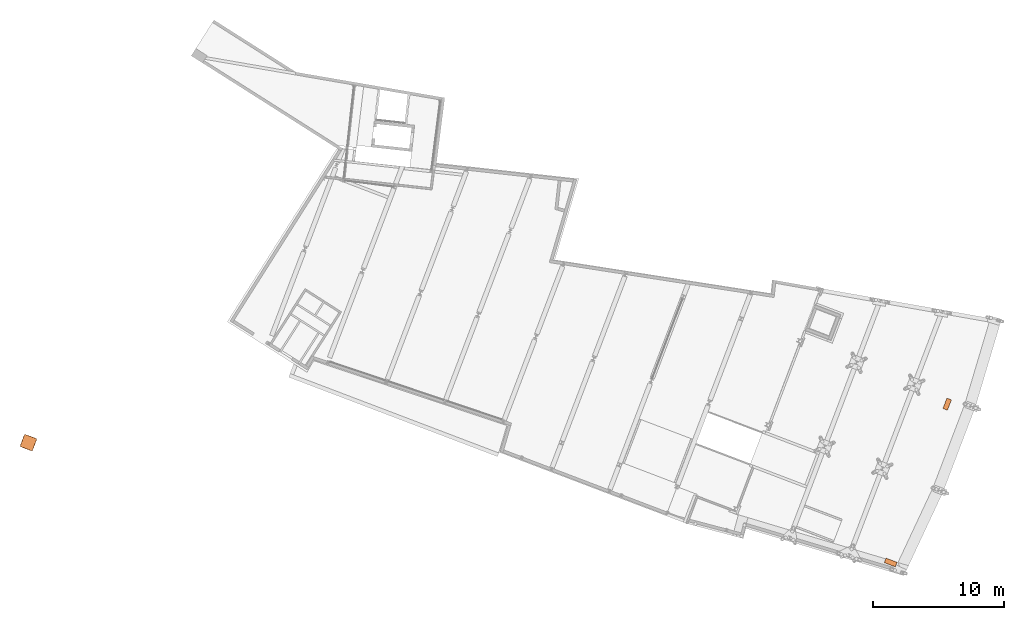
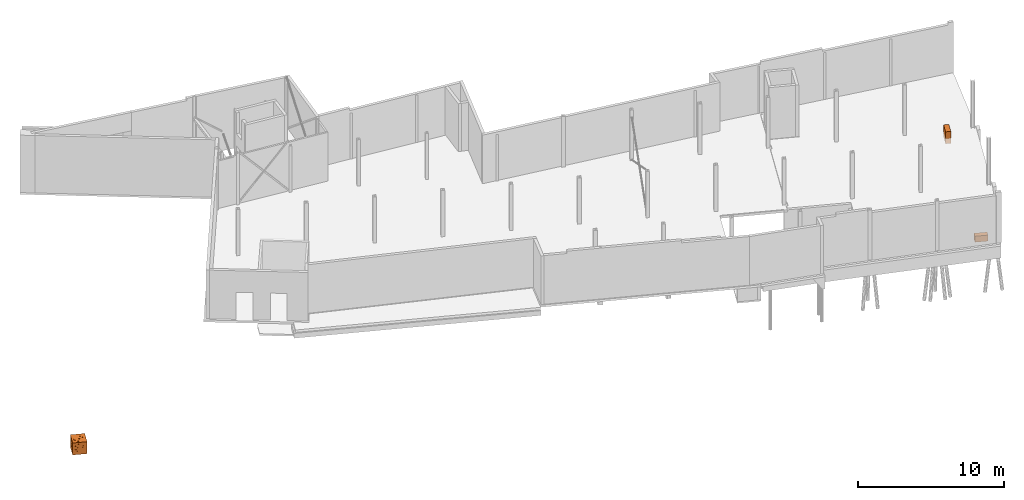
# One storey, part 46 of 46: 3 proxies.
"""IFC2X3 building model written with IfcOpenShell, lengths in millimetres."""

from ifc_helpers import new_model, entity, si_unit, converted_unit, derived_unit, direction, frame, frame_2d, origin, origin_2d_with_axis, place, context, subcontext, project, spatial, polyline, rectangle, circle, outline, extrude, source, transform, mapped, material, material_list, type_object, type_shapes, element, save


model = new_model("IFC2X3")

# Units and contexts
model_context = context("Model", 3, precision=0.01, world=origin(), true_north=direction((6.123233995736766e-17, 1.0)))
body_context = subcontext(model_context, "Body", "Model", "MODEL_VIEW")
ifc_project = project(units=[si_unit("LENGTHUNIT", "METRE", prefix="MILLI"), converted_unit("PLANEANGLEUNIT", "DEGREE", entity("IfcPlaneAngleMeasure", 0.017453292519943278), si_unit("PLANEANGLEUNIT", "RADIAN"), dimensions=[0, 0, 0, 0, 0, 0, 0]), si_unit("AREAUNIT", "SQUARE_METRE"), derived_unit("THERMALTRANSMITTANCEUNIT", [(si_unit("MASSUNIT", "GRAM", prefix="KILO"), 1), (si_unit("THERMODYNAMICTEMPERATUREUNIT", "KELVIN"), -1), (si_unit("TIMEUNIT", "SECOND"), -3)])], contexts=[model_context])

# Site, building, storey
site_placement = place(None, frame((-72937.88054949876, 11621.45624098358, 0.0), z_axis=(0.0, 0.0, 1.0), x_axis=(0.9346418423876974, -0.35559053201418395, 0.0)))
site = spatial("IfcSite", under=ifc_project, at=site_placement, Name="Default", CompositionType="ELEMENT")
building_placement = place(site_placement, origin())
building = spatial("IfcBuilding", under=site, at=building_placement, CompositionType="ELEMENT")
storey_placement = place(building_placement, origin())
storey = spatial("IfcBuildingStorey", under=building, at=storey_placement, Name="00 begane grond", CompositionType="ELEMENT", Elevation=0.0)

# Proxies
ifc_material_1 = material(Name="00_EPA_Paars")
ifc_material_2 = material(Name="00_EPA_Rood")
ifc_material_3 = material(Name="00_EPA_Groen")
ifc_material_4 = material(Name="00_EPA_Wit")
ifc_material_list = material_list([ifc_material_1, ifc_material_2, ifc_material_3, ifc_material_4])
building_element_proxy_type_1 = type_object("IfcBuildingElementProxyType", Name="EPA", PredefinedType="NOTDEFINED", material=ifc_material_list)
shared_shape_1 = source(origin(), body_context, "Body", "SweptSolid", [
    extrude(circle(Radius=71.4285714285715, at=frame_2d((-1.577919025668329e-28, -6.767919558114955e-14), x_axis=(1.0, 0.0))), frame((785.7142857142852, 1000.0, 357.14285714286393), z_axis=(0.0, 1.0, 0.0), x_axis=(-1.0, 0.0, 0.0)), (0.0, 0.0, 1.0), 10.000000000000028),
    extrude(circle(Radius=71.4285714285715, at=frame_2d((-3.155838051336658e-28, -1.353583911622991e-13), x_axis=(1.0, 0.0))), frame((214.28571428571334, 1000.0, 642.8571428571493), z_axis=(0.0, 1.0, 0.0), x_axis=(-1.0, 0.0, 0.0)), (0.0, 0.0, 1.0), 10.000000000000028),
    extrude(outline(polyline([(-238.09523809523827, -142.85714285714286), (333.33333333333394, -142.85714285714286), (333.33333333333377, 0.0), (-95.23809523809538, 0.0), (-95.23809523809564, 142.85714285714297), (-238.09523809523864, 142.857142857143), (-238.09523809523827, -142.85714285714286)])), frame((619.0476190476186, 1000.0, 571.4285714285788), z_axis=(0.0, 1.0, 0.0), x_axis=(-1.0, 0.0, 0.0)), (0.0, 0.0, 1.0), 10.000000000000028),
    extrude(rectangle(XDim=10.000000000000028, YDim=285.71428571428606, at=frame_2d((6.794564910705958e-14, 2.842170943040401e-14), x_axis=(1.0, 0.0))), frame((571.4285714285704, 1005.0, 142.85714285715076), z_axis=(0.0, 0.0, 1.0), x_axis=(0.0, -1.0, 0.0)), (0.0, 0.0, 1.0), 142.85714285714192),
    extrude(rectangle(XDim=10.000000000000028, YDim=428.5714285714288, at=frame_2d((6.794564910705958e-14, 4.263256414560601e-14), x_axis=(1.0, 0.0))), frame((500.0, 1005.0, 714.2857142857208), z_axis=(0.0, 0.0, 1.0), x_axis=(0.0, -1.0, 0.0)), (0.0, 0.0, 1.0), 142.85714285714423),
    extrude(circle(Radius=71.4285714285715, at=frame_2d((2.532184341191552e-27, -1.353583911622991e-13), x_axis=(1.0, 0.0))), frame((214.28571428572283, 357.142857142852, 1000.0)), (0.0, 0.0, 1.0), 10.000000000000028),
    extrude(circle(Radius=71.4285714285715, at=frame_2d((2.532184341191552e-27, -1.353583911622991e-13), x_axis=(1.0, 0.0))), frame((785.7142857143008, 642.8571428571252, 1000.0)), (0.0, 0.0, 1.0), 10.000000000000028),
    extrude(outline(polyline([(-238.0952380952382, -142.85714285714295), (333.33333333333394, -142.85714285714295), (333.3333333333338, 0.0), (-95.23809523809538, 0.0), (-95.23809523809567, 142.8571428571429), (-238.0952380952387, 142.85714285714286), (-238.0952380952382, -142.85714285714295)])), frame((380.95238095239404, 571.4285714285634, 1000.0)), (0.0, 0.0, 1.0), 10.000000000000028),
    extrude(rectangle(XDim=142.85714285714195, YDim=285.7142857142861, at=frame_2d((-2.1316282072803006e-14, 1.4210854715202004e-14), x_axis=(1.0, 0.0))), frame((428.5714285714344, 214.2857142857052, 1000.0), z_axis=(0.0, 0.0, 1.0), x_axis=(0.0, 1.0, 0.0)), (0.0, 0.0, 1.0), 10.000000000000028),
    extrude(rectangle(XDim=428.5714285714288, YDim=142.85714285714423, at=frame_2d((0.0, -7.105427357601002e-14), x_axis=(1.0, 0.0))), frame((500.0, 785.714285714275, 1000.0), z_axis=(0.0, 0.0, 1.0), x_axis=(-1.0, 0.0, 0.0)), (0.0, 0.0, 1.0), 10.000000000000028),
    extrude(circle(Radius=71.4285714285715, at=frame_2d((-1.0878624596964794e-27, -3.383959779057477e-13), x_axis=(1.0, 0.0))), frame((-10.0, 785.714285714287, 357.1428571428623), z_axis=(1.0, 0.0, 0.0), x_axis=(0.0, -1.0, 0.0)), (0.0, 0.0, 1.0), 10.0),
    extrude(circle(Radius=71.4285714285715, at=frame_2d((-1.3054349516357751e-27, -4.060751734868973e-13), x_axis=(1.0, 0.0))), frame((-10.0, 214.28571428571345, 642.8571428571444), z_axis=(1.0, 0.0, 0.0), x_axis=(0.0, -1.0, 0.0)), (0.0, 0.0, 1.0), 10.0),
    extrude(outline(polyline([(-142.85714285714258, -238.0952380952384), (142.85714285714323, -238.0952380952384), (142.8571428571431, -95.23809523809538), (0.0, -95.23809523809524), (0.0, 333.3333333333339), (-142.85714285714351, 333.33333333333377), (-142.85714285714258, -238.0952380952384)])), frame((-10.0, 619.047619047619, 571.4285714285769), z_axis=(1.0, 0.0, 0.0), x_axis=(0.0, 0.0, 1.0)), (0.0, 0.0, 1.0), 10.0),
    extrude(rectangle(XDim=10.0, YDim=285.71428571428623, at=frame_2d((0.0, 4.263256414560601e-14), x_axis=(1.0, 0.0))), frame((-5.0, 571.4285714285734, 142.85714285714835)), (0.0, 0.0, 1.0), 142.85714285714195),
    extrude(rectangle(XDim=10.0, YDim=428.5714285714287, at=frame_2d((0.0, 7.105427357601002e-14), x_axis=(1.0, 0.0))), frame((-5.0, 500.0, 714.2857142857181)), (0.0, 0.0, 1.0), 142.85714285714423),
    extrude(circle(Radius=71.4285714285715, at=frame_2d((0.0, -3.383959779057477e-13), x_axis=(1.0, 0.0))), frame((214.28571428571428, -10.0, 357.1428571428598), z_axis=(0.0, 1.0, 0.0), x_axis=(1.0, 0.0, 0.0)), (0.0, 0.0, 1.0), 10.0),
    extrude(circle(Radius=71.4285714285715, at=frame_2d((0.0, -2.707167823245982e-13), x_axis=(1.0, 0.0))), frame((785.7142857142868, -10.0, 642.8571428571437), z_axis=(0.0, 1.0, 0.0), x_axis=(1.0, 0.0, 0.0)), (0.0, 0.0, 1.0), 9.999999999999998),
    extrude(outline(polyline([(-142.85714285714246, -238.0952380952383), (142.85714285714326, -238.0952380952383), (142.8571428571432, -95.23809523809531), (0.0, -95.23809523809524), (0.0, 333.3333333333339), (-142.8571428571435, 333.3333333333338), (-142.85714285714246, -238.0952380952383)])), frame((380.95238095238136, -10.0, 571.4285714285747), z_axis=(0.0, 1.0, 0.0), x_axis=(0.0, 0.0, 1.0)), (0.0, 0.0, 1.0), 10.0),
    extrude(rectangle(XDim=10.0, YDim=285.7142857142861, at=origin_2d_with_axis()), frame((428.57142857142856, -5.0, 142.85714285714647), z_axis=(0.0, 0.0, 1.0), x_axis=(0.0, 1.0, 0.0)), (0.0, 0.0, 1.0), 142.85714285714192),
    extrude(rectangle(XDim=10.0, YDim=428.5714285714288, at=frame_2d((0.0, -4.263256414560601e-14), x_axis=(1.0, 0.0))), frame((500.0, -5.0, 714.2857142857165), z_axis=(0.0, 0.0, 1.0), x_axis=(0.0, 1.0, 0.0)), (0.0, 0.0, 1.0), 142.85714285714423),
    extrude(circle(Radius=71.4285714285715, at=frame_2d((-2.1871761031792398e-28, -6.767919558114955e-14), x_axis=(1.0, 0.0))), frame((1000.0, 214.28571428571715, 357.14285714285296), z_axis=(1.0, 0.0, 0.0), x_axis=(0.0, 1.0, 0.0)), (0.0, 0.0, 1.0), 10.000000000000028),
    extrude(circle(Radius=71.4285714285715, at=frame_2d((-4.3743522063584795e-28, -1.353583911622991e-13), x_axis=(1.0, 0.0))), frame((1000.0, 785.7142857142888, 642.8571428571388), z_axis=(1.0, 0.0, 0.0), x_axis=(0.0, 1.0, 0.0)), (0.0, 0.0, 1.0), 10.000000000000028),
    extrude(outline(polyline([(-238.0952380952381, -142.85714285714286), (333.33333333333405, -142.85714285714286), (333.3333333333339, 0.0), (-95.23809523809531, 0.0), (-95.23809523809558, 142.857142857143), (-238.09523809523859, 142.85714285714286), (-238.0952380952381, -142.85714285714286)])), frame((1000.0, 380.9523809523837, 571.428571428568), z_axis=(1.0, 0.0, 0.0), x_axis=(0.0, 1.0, 0.0)), (0.0, 0.0, 1.0), 10.000000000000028),
    extrude(rectangle(XDim=10.000000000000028, YDim=285.7142857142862, at=frame_2d((-6.794564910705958e-14, 0.0), x_axis=(1.0, 0.0))), frame((1005.0, 428.57142857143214, 142.85714285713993), z_axis=(0.0, 0.0, 1.0), x_axis=(-1.0, 0.0, 0.0)), (0.0, 0.0, 1.0), 142.85714285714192),
    extrude(rectangle(XDim=10.000000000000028, YDim=428.57142857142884, at=frame_2d((-6.794564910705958e-14, 7.105427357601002e-14), x_axis=(1.0, 0.0))), frame((1005.0, 500.0, 714.2857142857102), z_axis=(0.0, 0.0, 1.0), x_axis=(-1.0, 0.0, 0.0)), (0.0, 0.0, 1.0), 142.85714285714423),
    extrude(rectangle(XDim=999.9999999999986, YDim=999.9999999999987, at=frame_2d((-5.684341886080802e-14, 0.0), x_axis=(1.0, 0.0))), frame((500.0, 500.0, 0.0), z_axis=(0.0, 0.0, 1.0), x_axis=(0.0, 1.0, 0.0)), (0.0, 0.0, 1.0), 999.9999999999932),
])
type_shapes(building_element_proxy_type_1, [shared_shape_1])
proxy_1_placement = place(storey_placement, origin())
element("IfcBuildingElementProxy", 1, at=proxy_1_placement, inside=storey, type_object=building_element_proxy_type_1, material=ifc_material_list, Name="01_GM_ReferentieKubus:EPA", ObjectType="01_GM_ReferentieKubus:EPA", context=body_context, shape_type="MappedRepresentation", body=[
    mapped(shared_shape_1, transform((0.0, 0.0, 0.0), scale=1.0)),
])
ifc_material_5 = material(Name="ntb_ntb_generiek_sparingzone")
building_element_proxy_type_2 = type_object("IfcBuildingElementProxyType", Name="850x370", PredefinedType="USERDEFINED", material=ifc_material_5)
shared_shape_2 = source(origin(), body_context, "Body", "SweptSolid", [
    extrude(rectangle(XDim=369.99999999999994, YDim=849.9999999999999, at=origin_2d_with_axis()), frame((0.0, 0.0, -500.0), z_axis=(0.0, 0.0, 1.0), x_axis=(-1.0, 0.0, 0.0)), (0.0, 0.0, 1.0), 1000.0000000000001),
])
type_shapes(building_element_proxy_type_2, [shared_shape_2])
proxy_2_placement = place(storey_placement, frame((65186.36400200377, 28260.00011535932, 0.0)))
element("IfcBuildingElementProxy", 2, at=proxy_2_placement, inside=storey, type_object=building_element_proxy_type_2, material=ifc_material_5, Name="33.22_GM_SparingZone:850x370", ObjectType="33.22_GM_SparingZone:850x370", context=body_context, shape_type="MappedRepresentation", body=[
    mapped(shared_shape_2, transform((0.0, 0.0, 0.0), scale=1.0)),
])
building_element_proxy_type_3 = type_object("IfcBuildingElementProxyType", Name="900x370mm", PredefinedType="USERDEFINED", material=ifc_material_5)
shared_shape_3 = source(origin(), body_context, "Body", "SweptSolid", [
    extrude(rectangle(XDim=369.99999999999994, YDim=899.9999999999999, at=origin_2d_with_axis()), frame((0.0, 0.0, 0.0), z_axis=(0.0, 0.0, 1.0), x_axis=(-1.0, 0.0, 0.0)), (0.0, 0.0, 1.0), 500.00000000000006),
])
type_shapes(building_element_proxy_type_3, [shared_shape_3])
proxy_3_placement = place(storey_placement, frame((65450.00015558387, 15397.039787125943, 0.0), z_axis=(0.0, 0.0, 1.0), x_axis=(0.0, 1.0, 0.0)))
element("IfcBuildingElementProxy", 3, at=proxy_3_placement, inside=storey, type_object=building_element_proxy_type_3, material=ifc_material_5, Name="33.22_GM_SparingZone:900x370mm", ObjectType="33.22_GM_SparingZone:900x370mm", context=body_context, shape_type="MappedRepresentation", body=[
    mapped(shared_shape_3, transform((0.0, 0.0, 0.0), scale=1.0)),
])

save(model, "model.ifc")
